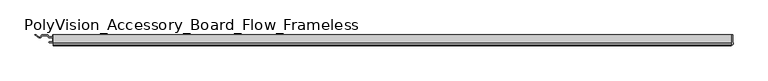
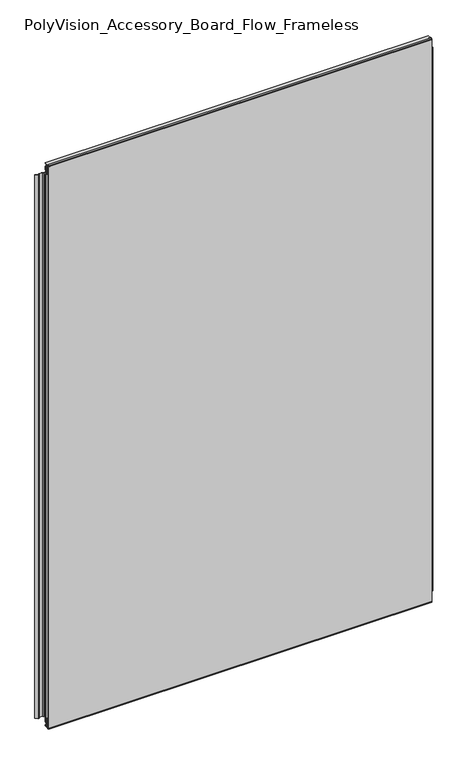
"""IFC4 building model written with IfcOpenShell, lengths in millimetres: furniture geometry, PolyVision_Accessory_Board_Flow_Frameless : 47W x 72H (1185 W x 1830 H)."""

import ifcopenshell
import ifcopenshell.guid

model = None  # the IFC model being written
_history = None  # IfcOwnerHistory: only IFC2X3 demands one
_inside = {}  # id of a spatial element -> (the spatial element, [elements in it])
_under = {}  # id of a project, library or spatial element -> (it, [spatial elements below it])
_declared = {}  # id of a project -> (the project, [libraries it declares])
_typed = {}  # id of a type object -> (the type object, [elements of that type])
_made_of = {}  # id of a material, layer set ... -> (it, [elements and type objects made of it])


def new_model(schema):
    """Start an empty IFC model of exactly this schema.

    Asked for "IFC4X3", IfcOpenShell would pick the latest addendum, in which some entities
    have other attributes; the version numbers below select the first issue.
    IFC2X3 requires an IfcOwnerHistory on every rooted entity: one is made here for all.
    """
    global model, _history
    if schema == "IFC4X3":
        model = ifcopenshell.file(schema_version=(4, 3, 0, 0))
    else:
        model = ifcopenshell.file(schema=schema)
    _inside.clear()
    _under.clear()
    _declared.clear()
    _typed.clear()
    _made_of.clear()
    _history = None
    if model.schema == "IFC2X3":
        org = make("IfcOrganization", Name="unknown")
        user = make(
            "IfcPersonAndOrganization",
            ThePerson=make("IfcPerson", FamilyName="unknown"),
            TheOrganization=org,
        )
        app = make(
            "IfcApplication",
            ApplicationDeveloper=org,
            Version="unknown",
            ApplicationFullName="unknown",
            ApplicationIdentifier="unknown",
        )
        _history = make(
            "IfcOwnerHistory",
            OwningUser=user,
            OwningApplication=app,
            ChangeAction="ADDED",
            CreationDate=0,
        )
    return model


def make(cls, **values):
    """One entity of the class cls with the attributes given. An attribute that is None is left unset."""
    return model.create_entity(
        cls, **{name: value for name, value in values.items() if value is not None}
    )


def rooted(cls, **values):
    """An entity with a GlobalId (a new one), such as an element, a storey or a relation."""
    return make(cls, GlobalId=ifcopenshell.guid.new(), OwnerHistory=_history, **values)


def si_unit(unit_type, name, prefix=None):
    """IfcSIUnit, for example si_unit("LENGTHUNIT", "METRE", prefix="MILLI")."""
    return make("IfcSIUnit", UnitType=unit_type, Prefix=prefix, Name=name)


def assignment(units):
    """IfcUnitAssignment: the units of a project."""
    return None if units is None else make("IfcUnitAssignment", Units=units)


def point(xyz):
    """IfcCartesianPoint."""
    return None if xyz is None else make("IfcCartesianPoint", Coordinates=xyz)


def direction(xyz):
    """IfcDirection."""
    return None if xyz is None else make("IfcDirection", DirectionRatios=xyz)


def frame(location, z_axis=None, x_axis=None):
    """IfcAxis2Placement3D, a coordinate frame: its origin and axes. An axis left out is left unset."""
    return make(
        "IfcAxis2Placement3D",
        Location=point(location),
        Axis=direction(z_axis),
        RefDirection=direction(x_axis),
    )


def frame_2d(location, x_axis=None):
    """IfcAxis2Placement2D, a coordinate frame in the plane: its origin and x axis."""
    return make(
        "IfcAxis2Placement2D", Location=point(location), RefDirection=direction(x_axis)
    )


def origin():
    """The frame at (0, 0, 0) with its axes left unset."""
    return frame((0.0, 0.0, 0.0))


def place(relative_to, where):
    """IfcLocalPlacement: puts the frame where relative to a parent placement (None: the world)."""
    return make(
        "IfcLocalPlacement", PlacementRelTo=relative_to, RelativePlacement=where
    )


def context(
    kind, dimensions, precision=None, world=None, true_north=None, identifier=None
):
    """IfcGeometricRepresentationContext, for example the 3D "Model" context."""
    return make(
        "IfcGeometricRepresentationContext",
        ContextIdentifier=identifier,
        ContextType=kind,
        CoordinateSpaceDimension=dimensions,
        Precision=precision,
        WorldCoordinateSystem=world,
        TrueNorth=true_north,
    )


def project(units=None, contexts=None):
    """IfcProject with its units and contexts."""
    return rooted(
        "IfcProject",
        Name="project",
        RepresentationContexts=contexts,
        UnitsInContext=assignment(units),
    )


def spatial(cls, under=None, at=None, **own):
    """A site, building, storey or space (cls), placed at a placement, below another one or the project."""
    s = rooted(cls, ObjectPlacement=at, **own)
    if under is not None:
        _under.setdefault(under.id(), (under, []))[1].append(s)
    return s


def polyline(points):
    """IfcPolyline through the points."""
    return make("IfcPolyline", Points=[point(p) for p in points])


def circle_curve(where, radius):
    """IfcCircle in the frame where."""
    return make("IfcCircle", Position=where, Radius=radius)


def trimmed(basis, trim1, trim2, sense, master):
    """IfcTrimmedCurve: the piece of a basis curve between two trims."""
    return make(
        "IfcTrimmedCurve",
        BasisCurve=basis,
        Trim1=trim1,
        Trim2=trim2,
        SenseAgreement=sense,
        MasterRepresentation=master,
    )


def segment(curve, same_sense, transition):
    """IfcCompositeCurveSegment."""
    return make(
        "IfcCompositeCurveSegment",
        Transition=transition,
        SameSense=same_sense,
        ParentCurve=curve,
    )


def composite_curve(segments, self_intersect=None):
    """IfcCompositeCurve: segments joined end to end."""
    return make("IfcCompositeCurve", Segments=segments, SelfIntersect=self_intersect)


def outline(outer, holes=None, kind="AREA"):
    """IfcArbitraryClosedProfileDef: a profile drawn as a closed curve; with holes, ...WithVoids."""
    if holes is None:
        return make("IfcArbitraryClosedProfileDef", ProfileType=kind, OuterCurve=outer)
    return make(
        "IfcArbitraryProfileDefWithVoids",
        ProfileType=kind,
        OuterCurve=outer,
        InnerCurves=holes,
    )


def extrude(swept, where, along, depth):
    """IfcExtrudedAreaSolid: the profile swept, set in the frame where, extruded along a direction by depth."""
    return make(
        "IfcExtrudedAreaSolid",
        SweptArea=swept,
        Position=where,
        ExtrudedDirection=direction(along),
        Depth=depth,
    )


def shape(context_of_items, identifier, shape_type, items):
    """IfcShapeRepresentation: the items that make up one representation, for example the "Body"."""
    return make(
        "IfcShapeRepresentation",
        ContextOfItems=context_of_items,
        RepresentationIdentifier=identifier,
        RepresentationType=shape_type,
        Items=items,
    )


def source(mapping_origin, context_of_items, identifier, shape_type, items):
    """IfcRepresentationMap: a shape defined once, which mapped items show again and again."""
    return make(
        "IfcRepresentationMap",
        MappingOrigin=mapping_origin,
        MappedRepresentation=shape(context_of_items, identifier, shape_type, items),
    )


def transform(
    local_origin,
    x_axis=None,
    y_axis=None,
    z_axis=None,
    scale=None,
    scale2=None,
    scale3=None,
    uniform=True,
):
    """IfcCartesianTransformationOperator3D, or its non-uniform kind. x_axis, y_axis, z_axis: its Axis1, 2, 3."""
    if uniform:
        return make(
            "IfcCartesianTransformationOperator3D",
            Axis1=direction(x_axis),
            Axis2=direction(y_axis),
            LocalOrigin=point(local_origin),
            Scale=scale,
            Axis3=direction(z_axis),
        )
    return make(
        "IfcCartesianTransformationOperator3DnonUniform",
        Axis1=direction(x_axis),
        Axis2=direction(y_axis),
        LocalOrigin=point(local_origin),
        Scale=scale,
        Axis3=direction(z_axis),
        Scale2=scale2,
        Scale3=scale3,
    )


def mapped(mapping_source, mapping_target):
    """IfcMappedItem: shows the shape of a source again, moved by a transform."""
    return make(
        "IfcMappedItem", MappingSource=mapping_source, MappingTarget=mapping_target
    )


def made_of(thing, what):
    """Note that an element or type object is made of a material, layer set ...; save() writes the relation."""
    if what is not None:
        _made_of.setdefault(what.id(), (what, []))[1].append(thing)
    return thing


def element(
    cls,
    number,
    at=None,
    inside=None,
    cuts=None,
    type_object=None,
    material=None,
    context=None,
    identifier="Body",
    shape_type=None,
    held_by="IfcProductDefinitionShape",
    body=None,
    shapes=None,
    **own,
):
    """One element of the class cls, such as IfcWall. Its Tag is "e" and its number.

    at: its placement. inside: the storey or other place that contains it. cuts: it is an
    opening in that element (IfcRelVoidsElement). A single representation is given by context,
    identifier, shape_type and body (its items); several are given by shapes. held_by: the class
    of the entity that holds the representations. save() writes the other relations.
    """
    e = rooted(cls, Tag="e%d" % number, ObjectPlacement=at, **own)
    if body is not None:
        shapes = [shape(context, identifier, shape_type, body)]
    if shapes is not None:
        e.Representation = make(held_by, Representations=shapes)
    if inside is not None:
        _inside.setdefault(inside.id(), (inside, []))[1].append(e)
    if cuts is not None:
        rooted(
            "IfcRelVoidsElement", RelatingBuildingElement=cuts, RelatedOpeningElement=e
        )
    if type_object is not None:
        _typed.setdefault(type_object.id(), (type_object, []))[1].append(e)
    return made_of(e, material)


def aggregate(whole, parts):
    """IfcRelAggregates: a whole, such as a stair, and the parts it consists of."""
    return rooted("IfcRelAggregates", RelatingObject=whole, RelatedObjects=parts)


def save(model, path):
    """Write the relations noted so far, then the file.

    IfcRelAggregates (storeys below a building ...), IfcRelContainedInSpatialStructure (elements
    in a storey), IfcRelDefinesByType, IfcRelAssociatesMaterial and IfcRelDeclares: one each for
    every whole, place, type object, material and project.
    """
    for whole, parts in _under.values():
        aggregate(whole, parts)
    for where, things in _inside.values():
        rooted(
            "IfcRelContainedInSpatialStructure",
            RelatedElements=things,
            RelatingStructure=where,
        )
    for kind, things in _typed.values():
        rooted("IfcRelDefinesByType", RelatedObjects=things, RelatingType=kind)
    for what, things in _made_of.values():
        rooted("IfcRelAssociatesMaterial", RelatedObjects=things, RelatingMaterial=what)
    for by, libraries in _declared.values():
        rooted("IfcRelDeclares", RelatingContext=by, RelatedDefinitions=libraries)
    model.write(path)


def polyvision_accessory_board_flow_frameless_2d1106f9(model_context):
    return source(origin(), model_context, "Body", "SweptSolid", [
        extrude(outline(polyline([(-2.1773004, 1827.6977202), (-2.1773004, 1826.8340763), (11.9065147, 1826.8340763), (11.9065147, 1824.149308), (7.6861579, 1824.149308), (7.6861579, 1817.1597246), (11.9065147, 1814.0934559), (11.9065147, 1804.1500962), (8.0075268, 1801.3173157), (7.7813476, 1800.4732034), (9.5131033, 1798.0), (7.5873908, 1798.0), (6.1707503, 1800.0231723), (6.1707503, 1801.7730492), (10.4011044, 1804.8465813), (10.4011044, 1813.2889188), (6.1707503, 1816.3624509), (6.1707503, 1823.2252503), (5.2024973, 1823.2252503), (4.2308366, 1824.3425727), (3.1736041, 1823.2853402), (2.1319224, 1824.3270218), (1.2210895, 1823.2415334), (0.4403969, 1824.2407744), (-0.5343781, 1823.2659994), (-1.3255269, 1823.2659994), (-1.3255269, 1824.7318758), (-2.1773004, 1824.7318758), (-2.1773004, 1823.8660166), (-5.4323759, 1824.6775981), (-5.4323759, 1826.8964971), (-2.1773004, 1827.6977202)])), frame((-587.0671964, 0.0, 0.0), z_axis=(1.0, 0.0, 0.0), x_axis=(0.0, 1.0, 0.0)), (0.0, 0.0, 1.0), 1174.1343929),
        extrude(outline(polyline([(-587.7413843, 0.0476856), (-587.7413843, 6.7743691), (-595.1878129, 6.7743691), (-597.7413843, 10.3493691), (-606.1415584, 10.3493691), (-608.7389479, 6.7743691), (-611.9925808, 6.7743691), (-618.9777191, 11.8493691), (-616.3960682, 11.8493691), (-610.1907804, 7.3409636), (-606.8911765, 11.8824787), (-596.8911765, 11.8824787), (-594.3371154, 8.3067932), (-587.741586, 8.3067932), (-587.741586, 11.8421507), (-586.3411827, 11.8421507), (-586.3411827, 8.3067932), (-579.7456533, 8.3067932), (-577.1915922, 11.8824787), (-567.1915922, 11.8824787), (-563.8919883, 7.3409636), (-557.6867004, 11.8493691), (-555.1050496, 11.8493691), (-562.0901879, 6.7743691), (-565.3438207, 6.7743691), (-567.9412103, 10.3493691), (-576.3413843, 10.3493691), (-578.8949558, 6.7743691), (-586.3413843, 6.7743691), (-586.3413843, 0.0476856), (-579.6671757, 0.0476856), (-578.6671757, -0.9523144), (-579.6671757, -1.9523144), (-594.4155929, -1.9523144), (-595.4155929, -0.9523144), (-594.4155929, 0.0476856), (-587.7413843, 0.0476856)])), frame((0.0, 0.0, 39.0), z_axis=(0.0, 0.0, 1.0), x_axis=(1.0, 0.0, 0.0)), (0.0, 0.0, 1.0), 1759.0),
        extrude(outline(composite_curve([segment(polyline([(587.1, 11.9013244), (589.8, 11.9013244), (589.8, -1.6455195)]), True, "CONTINUOUS"), segment(trimmed(circle_curve(frame_2d((589.6394284, -2.1699579)), 0.5484695), [point((589.8, -1.6455195))], [point((590.1711928, -2.304291))], False, "CARTESIAN"), True, "CONTINUOUS"), segment(polyline([(590.1711928, -2.304291), (589.9420492, -3.2113669)]), True, "CONTINUOUS"), segment(trimmed(circle_curve(frame_2d((589.4794556, -3.7545459)), 0.7134678), [point((589.9420492, -3.2113669))], [point((590.1711928, -3.929291))], False, "CARTESIAN"), True, "CONTINUOUS"), segment(polyline([(590.1711928, -3.929291), (589.8, -5.3986756), (588.0042411, -5.3986756), (587.5072946, -3.9463196)]), True, "CONTINUOUS"), segment(trimmed(circle_curve(frame_2d((588.3554261, -3.6561181)), 0.8964062), [point((587.5072946, -3.9463196))], [point((587.6426522, -3.1125214))], False, "CARTESIAN"), True, "CONTINUOUS"), segment(polyline([(587.6426522, -3.1125214), (587.3738092, -2.3268115)]), True, "CONTINUOUS"), segment(trimmed(circle_curve(frame_2d((587.8571228, -2.1614381)), 0.5108233), [point((587.3738092, -2.3268115))], [point((587.6927651, -1.6777781))], False, "CARTESIAN"), True, "CONTINUOUS"), segment(polyline([(587.6927651, -1.6777781), (587.5273508, 0.3291062), (586.2, 1.2679911), (587.5038418, 2.1902472), (586.2, 3.2013244), (587.4895571, 4.2013244), (586.3161604, 5.1112467), (585.8739831, 6.2694723), (579.251323, 6.2694723), (576.3, 10.4013244), (567.8, 10.4013244), (564.7776266, 6.1700016), (562.944193, 6.1700016), (556.1267804, 11.0019991)]), True, "CONTINUOUS"), segment(trimmed(circle_curve(frame_2d((556.413169, 11.4060617)), 0.4952627), [point((556.1267804, 11.0019991))], [point((556.413169, 11.9013244))], False, "CARTESIAN"), True, "CONTINUOUS"), segment(polyline([(556.413169, 11.9013244), (557.7, 11.9013244), (563.8928443, 7.5120041), (567.0280732, 11.9013244), (577.0719268, 11.9013244), (580.0719268, 7.7013244), (587.1, 7.7013244), (587.1, 11.9013244)]), True, "CONTINUOUS")], self_intersect=False)), frame((0.0, 0.0, 39.0), z_axis=(0.0, 0.0, 1.0), x_axis=(1.0, 0.0, 0.0)), (0.0, 0.0, 1.0), 1759.0),
        extrude(outline(polyline([(-2.1773004, 3.0522798), (-5.4323759, 3.8535029), (-5.4323759, 6.0724019), (-2.1773004, 6.8839834), (-2.1773004, 6.0181242), (-1.3255269, 6.0181242), (-1.3255269, 7.4840006), (-0.5343781, 7.4840006), (0.4403969, 6.5092256), (1.2210895, 7.5084666), (2.1319224, 6.4229782), (3.1736041, 7.4646598), (4.2308366, 6.4074273), (5.2024973, 7.5247497), (6.1707503, 7.5247497), (6.1707503, 14.3875491), (10.4011044, 17.4610812), (10.4011044, 25.9034187), (6.1707503, 28.9769508), (6.1707503, 30.7268277), (11.9065147, 38.9183482), (11.9065147, 36.1681457), (7.7813476, 30.2767966), (8.0075268, 29.4326843), (11.9065147, 26.5999038), (11.9065147, 16.6565441), (7.6861579, 13.5902754), (7.6861579, 6.600692), (11.9065147, 6.600692), (11.9065147, 3.9159237), (-2.1773004, 3.9159237), (-2.1773004, 3.0522798)])), frame((-587.0671964, 0.0, 0.0), z_axis=(1.0, 0.0, 0.0), x_axis=(0.0, 1.0, 0.0)), (0.0, 0.0, 1.0), 1174.1343929),
        extrude(outline(polyline([(587.0671964, -6.2220176), (587.0671964, -7.0048301), (-587.0671964, -7.0048301), (-587.0671964, -6.2220176), (587.0671964, -6.2220176)])), frame((0.0, 0.0, 7.0), z_axis=(0.0, 0.0, 1.0), x_axis=(1.0, 0.0, 0.0)), (0.0, 0.0, 1.0), 1817.0),
        extrude(outline(polyline([(585.0671964, 5.9853098), (585.0671964, 5.2024973), (-585.0671964, 5.2024973), (-585.0671964, 5.9853098), (585.0671964, 5.9853098)])), frame((0.0, 0.0, 7.0), z_axis=(0.0, 0.0, 1.0), x_axis=(1.0, 0.0, 0.0)), (0.0, 0.0, 1.0), 1817.0),
        extrude(outline(polyline([(585.0671964, 5.2024973), (585.0671964, 0.2355242), (575.0671964, 0.2355242), (575.0671964, -2.1351563), (587.0671964, -2.1351563), (587.0671964, -5.7140707), (-587.0671964, -5.7140707), (-587.0671964, -2.1351563), (-575.0671964, -2.1351563), (-575.0671964, 0.2355242), (-585.0671964, 0.2355242), (-585.0671964, 5.2024973), (585.0671964, 5.2024973)])), frame((0.0, 0.0, 7.0), z_axis=(0.0, 0.0, 1.0), x_axis=(1.0, 0.0, 0.0)), (0.0, 0.0, 1.0), 1817.0),
    ])


if __name__ == "__main__":
    model = new_model("IFC4")
    model_context = context("Model", 3, world=origin())
    ifc_project = project(units=[si_unit("LENGTHUNIT", "METRE", prefix="MILLI")], contexts=[model_context])
    site = spatial("IfcSite", under=ifc_project)
    building = spatial("IfcBuilding", under=site)
    placement = place(None, origin())
    polyvision_accessory_board_flow_frameless_shape = polyvision_accessory_board_flow_frameless_2d1106f9(model_context)
    element("IfcFurniture", 1, ObjectType="PolyVision_Accessory_Board_Flow_Frameless : 47W x 72H (1185 W x 1830 H)", at=placement, inside=building, context=model_context, shape_type="MappedRepresentation", body=[
        mapped(polyvision_accessory_board_flow_frameless_shape, transform((0.0, 0.0, 0.0), x_axis=(1.0, 0.0, 0.0), y_axis=(0.0, 1.0, 0.0), z_axis=(0.0, 0.0, 1.0))),
    ])
    save(model, "model.ifc")
